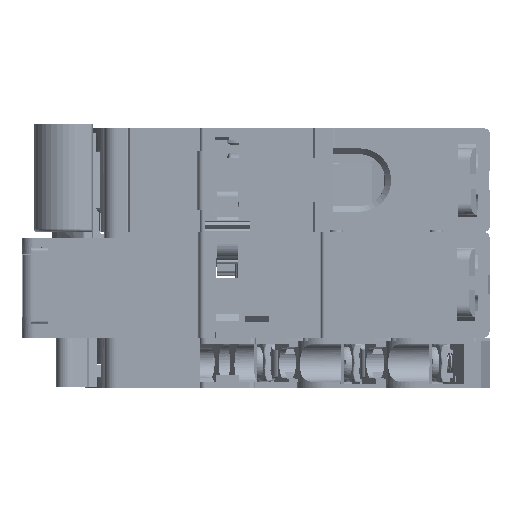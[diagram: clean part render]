
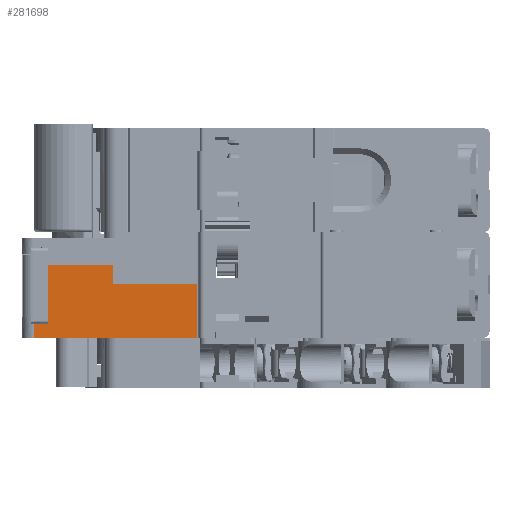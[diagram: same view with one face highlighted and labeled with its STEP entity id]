
A CAD part, left-side view. The second image highlights one B-rep face of the part: STEP entity #281698.
In plain terms, the highlighted planar face has unit normal (-1, 0, 0).
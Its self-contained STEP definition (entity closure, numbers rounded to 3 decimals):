
#9828 = DIRECTION ( 'NONE',  ( 0., 0., -1. ) ) ;
#19218 = VECTOR ( 'NONE', #19273, 1000. ) ;
#19273 = DIRECTION ( 'NONE',  ( 0., 0., -1. ) ) ;
#37180 = ORIENTED_EDGE ( 'NONE', *, *, #181067, .T. ) ;
#39335 = VERTEX_POINT ( 'NONE', #189724 ) ;
#40260 = DIRECTION ( 'NONE',  ( 0., -1., 0. ) ) ;
#46086 = DIRECTION ( 'NONE',  ( 0., -1., 0. ) ) ;
#50446 = CARTESIAN_POINT ( 'NONE',  ( -67.518, 38.787, -24.746 ) ) ;
#52371 = ORIENTED_EDGE ( 'NONE', *, *, #55990, .T. ) ;
#53555 = ORIENTED_EDGE ( 'NONE', *, *, #266422, .T. ) ;
#54102 = AXIS2_PLACEMENT_3D ( 'NONE', #295590, #191855, #69192 ) ;
#55990 = EDGE_CURVE ( 'NONE', #231266, #194879, #81047, .T. ) ;
#57494 = CARTESIAN_POINT ( 'NONE',  ( -67.518, 50.787, -24.746 ) ) ;
#61452 = VECTOR ( 'NONE', #46086, 1000. ) ;
#69192 = DIRECTION ( 'NONE',  ( 0., 0., 1. ) ) ;
#70042 = VERTEX_POINT ( 'NONE', #311390 ) ;
#71399 = EDGE_LOOP ( 'NONE', ( #52371, #53555, #116173, #114100, #74559, #295669, #302884, #37180 ) ) ;
#74438 = CARTESIAN_POINT ( 'NONE',  ( -67.518, 48.287, -12.346 ) ) ;
#74559 = ORIENTED_EDGE ( 'NONE', *, *, #260139, .T. ) ;
#81047 = LINE ( 'NONE', #50446, #61452 ) ;
#84457 = LINE ( 'NONE', #192748, #210850 ) ;
#85111 = CARTESIAN_POINT ( 'NONE',  ( -67.518, 50.787, -24.546 ) ) ;
#93860 = VECTOR ( 'NONE', #172773, 1000. ) ;
#96409 = VERTEX_POINT ( 'NONE', #143220 ) ;
#96925 = EDGE_CURVE ( 'NONE', #96409, #70042, #84457, .T. ) ;
#97983 = LINE ( 'NONE', #251711, #93860 ) ;
#98716 = LINE ( 'NONE', #254339, #134275 ) ;
#102933 = LINE ( 'NONE', #315306, #241074 ) ;
#103096 = DIRECTION ( 'NONE',  ( 0., 0., 1. ) ) ;
#107563 = EDGE_CURVE ( 'NONE', #268564, #309937, #97983, .T. ) ;
#114100 = ORIENTED_EDGE ( 'NONE', *, *, #325768, .F. ) ;
#116173 = ORIENTED_EDGE ( 'NONE', *, *, #96925, .F. ) ;
#126174 = LINE ( 'NONE', #169638, #19218 ) ;
#130411 = VECTOR ( 'NONE', #289983, 1000. ) ;
#134275 = VECTOR ( 'NONE', #103096, 1000. ) ;
#143220 = CARTESIAN_POINT ( 'NONE',  ( -67.518, 37.287, -15.646 ) ) ;
#169638 = CARTESIAN_POINT ( 'NONE',  ( -67.518, 37.287, -6.746 ) ) ;
#172773 = DIRECTION ( 'NONE',  ( 0., -1., 0. ) ) ;
#179842 = VECTOR ( 'NONE', #9828, 1000. ) ;
#181067 = EDGE_CURVE ( 'NONE', #268564, #231266, #259058, .T. ) ;
#186255 = CARTESIAN_POINT ( 'NONE',  ( -67.518, 48.287, -12.346 ) ) ;
#188251 = DIRECTION ( 'NONE',  ( 0., 0., 1. ) ) ;
#189724 = CARTESIAN_POINT ( 'NONE',  ( -67.518, 37.287, -12.346 ) ) ;
#191855 = DIRECTION ( 'NONE',  ( -1., 0., 0. ) ) ;
#192748 = CARTESIAN_POINT ( 'NONE',  ( -67.518, 38.787, -15.646 ) ) ;
#194879 = VERTEX_POINT ( 'NONE', #225157 ) ;
#195145 = PLANE ( 'NONE',  #54102 ) ;
#210850 = VECTOR ( 'NONE', #40260, 1000. ) ;
#212031 = VERTEX_POINT ( 'NONE', #74438 ) ;
#225157 = CARTESIAN_POINT ( 'NONE',  ( -67.518, 22.987, -24.746 ) ) ;
#225941 = CARTESIAN_POINT ( 'NONE',  ( -67.518, 50.787, -22.346 ) ) ;
#231266 = VERTEX_POINT ( 'NONE', #57494 ) ;
#240983 = LINE ( 'NONE', #186255, #130411 ) ;
#241074 = VECTOR ( 'NONE', #188251, 1000. ) ;
#251711 = CARTESIAN_POINT ( 'NONE',  ( -67.518, 51.287, -22.346 ) ) ;
#254339 = CARTESIAN_POINT ( 'NONE',  ( -67.518, 48.287, -22.546 ) ) ;
#259058 = LINE ( 'NONE', #85111, #179842 ) ;
#260139 = EDGE_CURVE ( 'NONE', #39335, #212031, #240983, .T. ) ;
#260594 = EDGE_CURVE ( 'NONE', #309937, #212031, #98716, .T. ) ;
#261831 = CARTESIAN_POINT ( 'NONE',  ( -67.518, 48.287, -22.346 ) ) ;
#266422 = EDGE_CURVE ( 'NONE', #194879, #70042, #102933, .T. ) ;
#268564 = VERTEX_POINT ( 'NONE', #225941 ) ;
#281698 = ADVANCED_FACE ( 'NONE', ( #290962 ), #195145, .T. ) ;
#289983 = DIRECTION ( 'NONE',  ( 0., 1., 0. ) ) ;
#290962 = FACE_OUTER_BOUND ( 'NONE', #71399, .T. ) ;
#295590 = CARTESIAN_POINT ( 'NONE',  ( -67.518, 38.787, -24.546 ) ) ;
#295669 = ORIENTED_EDGE ( 'NONE', *, *, #260594, .F. ) ;
#302884 = ORIENTED_EDGE ( 'NONE', *, *, #107563, .F. ) ;
#309937 = VERTEX_POINT ( 'NONE', #261831 ) ;
#311390 = CARTESIAN_POINT ( 'NONE',  ( -67.518, 22.987, -15.646 ) ) ;
#315306 = CARTESIAN_POINT ( 'NONE',  ( -67.518, 22.987, -15.646 ) ) ;
#325768 = EDGE_CURVE ( 'NONE', #39335, #96409, #126174, .T. ) ;
